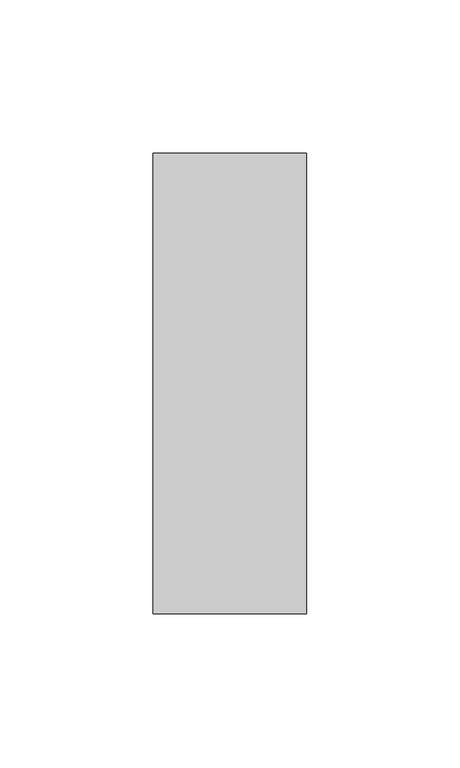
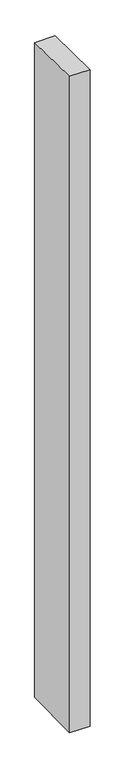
"""IFC4 building model written with IfcOpenShell, lengths in millimetres: member geometry, Прямоугольный импост : 50 x 150 мм."""

from ifc_helpers import new_model, si_unit, origin, place, context, project, spatial, faceted_brep, source, transform, mapped, element, save


def member_6ffadbbd(model_context):
    return source(origin(), model_context, "Body", "Brep", [
        faceted_brep([(-25.0, 75.0, -1.378962), (25.0, 75.0, -1.1846082), (25.0, 75.0, -1714.7198127), (-25.0, 75.0, -1714.4588841), (-25.0, -75.0, 1.1846082), (-25.0, -75.0, -1716.4929677), (25.0, -75.0, 1.378962), (25.0, -75.0, -1716.7538963)], [[[0, 1, 2, 3]], [[4, 0, 3, 5]], [[6, 4, 5, 7]], [[1, 6, 7, 2]], [[1, 0, 4, 6]], [[2, 7, 5, 3]]]),
    ])


if __name__ == "__main__":
    model = new_model("IFC4")
    model_context = context("Model", 3, world=origin())
    ifc_project = project(units=[si_unit("LENGTHUNIT", "METRE", prefix="MILLI")], contexts=[model_context])
    site = spatial("IfcSite", under=ifc_project)
    building = spatial("IfcBuilding", under=site)
    placement = place(None, origin())
    member_shape = member_6ffadbbd(model_context)
    element("IfcMember", 1, ObjectType="Прямоугольный импост : 50 x 150 мм", at=placement, inside=building, context=model_context, shape_type="MappedRepresentation", body=[
        mapped(member_shape, transform((0.0, 0.0, 0.0), x_axis=(1.0, 0.0, 0.0), y_axis=(0.0, 1.0, 0.0), z_axis=(0.0, 0.0, 1.0))),
    ])
    save(model, "model.ifc")
